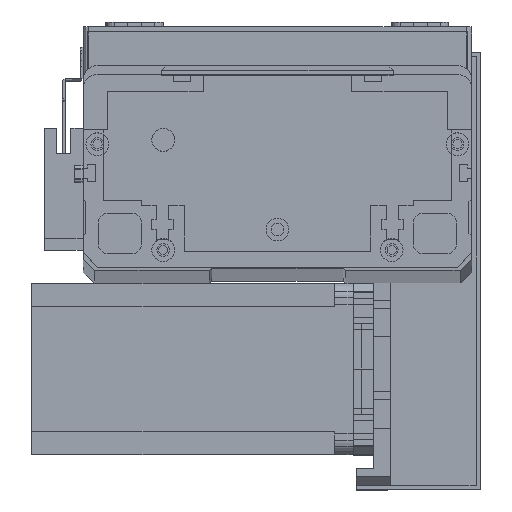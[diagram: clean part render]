
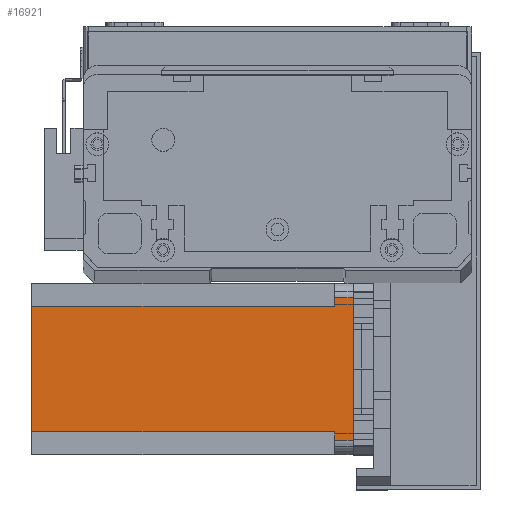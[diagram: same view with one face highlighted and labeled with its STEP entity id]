
A CAD part, top view. The second image highlights one B-rep face of the part: STEP entity #16921.
In plain terms, the highlighted planar face has unit normal (0, 0, 1) as drawn and (0, -1, 0) by its records, which use the part's own axes.
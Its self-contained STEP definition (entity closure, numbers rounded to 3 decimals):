
#9 = EDGE_CURVE ( 'NONE', #16511, #15561, #15247, .T. ) ;
#954 = EDGE_CURVE ( 'NONE', #16177, #5757, #18824, .T. ) ;
#1212 = VECTOR ( 'NONE', #22740, 1000. ) ;
#1930 = VECTOR ( 'NONE', #15851, 1000. ) ;
#3351 = CARTESIAN_POINT ( 'NONE',  ( 0., 0., 0. ) ) ;
#3887 = VECTOR ( 'NONE', #7413, 1000. ) ;
#3985 = CARTESIAN_POINT ( 'NONE',  ( 5., 0., 0. ) ) ;
#4473 = DIRECTION ( 'NONE',  ( 0., -1., 0. ) ) ;
#4561 = DIRECTION ( 'NONE',  ( 0., 0., -1. ) ) ;
#4811 = LINE ( 'NONE', #11528, #29247 ) ;
#5757 = VERTEX_POINT ( 'NONE', #13671 ) ;
#5843 = DIRECTION ( 'NONE',  ( 1., 0., 0. ) ) ;
#7140 = ORIENTED_EDGE ( 'NONE', *, *, #19700, .T. ) ;
#7413 = DIRECTION ( 'NONE',  ( 1., 0., 0. ) ) ;
#7622 = CARTESIAN_POINT ( 'NONE',  ( 55., 0., -112.5 ) ) ;
#8197 = ORIENTED_EDGE ( 'NONE', *, *, #30414, .T. ) ;
#8341 = VERTEX_POINT ( 'NONE', #13734 ) ;
#8391 = EDGE_CURVE ( 'NONE', #21338, #8341, #4811, .T. ) ;
#8460 = ORIENTED_EDGE ( 'NONE', *, *, #9, .F. ) ;
#9320 = CARTESIAN_POINT ( 'NONE',  ( 8., 0., -6.5 ) ) ;
#9552 = DIRECTION ( 'NONE',  ( 0., 0., 1. ) ) ;
#9586 = VECTOR ( 'NONE', #9552, 1000. ) ;
#10409 = LINE ( 'NONE', #14630, #3887 ) ;
#10490 = CARTESIAN_POINT ( 'NONE',  ( 5., 0., -112.5 ) ) ;
#11528 = CARTESIAN_POINT ( 'NONE',  ( 52., 0., -112.5 ) ) ;
#11952 = VECTOR ( 'NONE', #17290, 1000. ) ;
#12074 = CARTESIAN_POINT ( 'NONE',  ( 55., 0., 0. ) ) ;
#12182 = EDGE_CURVE ( 'NONE', #21338, #13170, #10409, .T. ) ;
#12520 = EDGE_CURVE ( 'NONE', #15561, #5757, #21108, .T. ) ;
#13170 = VERTEX_POINT ( 'NONE', #22982 ) ;
#13671 = CARTESIAN_POINT ( 'NONE',  ( 5., 0., -6.5 ) ) ;
#13734 = CARTESIAN_POINT ( 'NONE',  ( 52., 0., -112.5 ) ) ;
#14201 = LINE ( 'NONE', #23249, #1212 ) ;
#14587 = ORIENTED_EDGE ( 'NONE', *, *, #12182, .T. ) ;
#14630 = CARTESIAN_POINT ( 'NONE',  ( 52., 0., -6.5 ) ) ;
#15041 = FACE_OUTER_BOUND ( 'NONE', #17133, .T. ) ;
#15247 = LINE ( 'NONE', #22090, #9586 ) ;
#15561 = VERTEX_POINT ( 'NONE', #9320 ) ;
#15851 = DIRECTION ( 'NONE',  ( -1., 0., 0. ) ) ;
#16177 = VERTEX_POINT ( 'NONE', #3985 ) ;
#16430 = CARTESIAN_POINT ( 'NONE',  ( 0., 0., -112.5 ) ) ;
#16445 = LINE ( 'NONE', #3351, #28027 ) ;
#16511 = VERTEX_POINT ( 'NONE', #26640 ) ;
#16578 = CARTESIAN_POINT ( 'NONE',  ( 52., 0., -6.5 ) ) ;
#16921 = ADVANCED_FACE ( 'NONE', ( #15041 ), #18872, .T. ) ;
#17133 = EDGE_LOOP ( 'NONE', ( #14587, #7140, #25484, #17385, #28291, #8460, #8197, #24563 ) ) ;
#17290 = DIRECTION ( 'NONE',  ( 0., 0., 1. ) ) ;
#17385 = ORIENTED_EDGE ( 'NONE', *, *, #954, .T. ) ;
#17879 = EDGE_CURVE ( 'NONE', #16177, #28351, #16445, .T. ) ;
#18212 = LINE ( 'NONE', #7622, #11952 ) ;
#18634 = DIRECTION ( 'NONE',  ( 0., 0., -1. ) ) ;
#18824 = LINE ( 'NONE', #10490, #24332 ) ;
#18862 = AXIS2_PLACEMENT_3D ( 'NONE', #16430, #4473, #21230 ) ;
#18872 = PLANE ( 'NONE',  #18862 ) ;
#19700 = EDGE_CURVE ( 'NONE', #13170, #28351, #18212, .T. ) ;
#21108 = LINE ( 'NONE', #27410, #1930 ) ;
#21230 = DIRECTION ( 'NONE',  ( 0., 0., -1. ) ) ;
#21338 = VERTEX_POINT ( 'NONE', #16578 ) ;
#22090 = CARTESIAN_POINT ( 'NONE',  ( 8., 0., -112.5 ) ) ;
#22740 = DIRECTION ( 'NONE',  ( 1., 0., 0. ) ) ;
#22982 = CARTESIAN_POINT ( 'NONE',  ( 55., 0., -6.5 ) ) ;
#23249 = CARTESIAN_POINT ( 'NONE',  ( 0., 0., -112.5 ) ) ;
#24332 = VECTOR ( 'NONE', #4561, 1000. ) ;
#24563 = ORIENTED_EDGE ( 'NONE', *, *, #8391, .F. ) ;
#25484 = ORIENTED_EDGE ( 'NONE', *, *, #17879, .F. ) ;
#26640 = CARTESIAN_POINT ( 'NONE',  ( 8., 0., -112.5 ) ) ;
#27410 = CARTESIAN_POINT ( 'NONE',  ( 8., 0., -6.5 ) ) ;
#28027 = VECTOR ( 'NONE', #5843, 1000. ) ;
#28291 = ORIENTED_EDGE ( 'NONE', *, *, #12520, .F. ) ;
#28351 = VERTEX_POINT ( 'NONE', #12074 ) ;
#29247 = VECTOR ( 'NONE', #18634, 1000. ) ;
#30414 = EDGE_CURVE ( 'NONE', #16511, #8341, #14201, .T. ) ;
